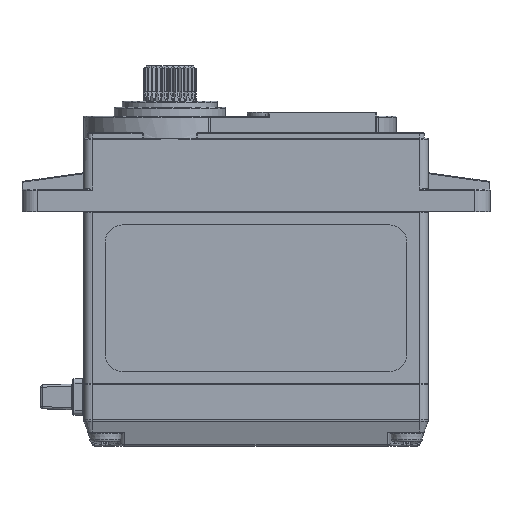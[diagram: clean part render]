
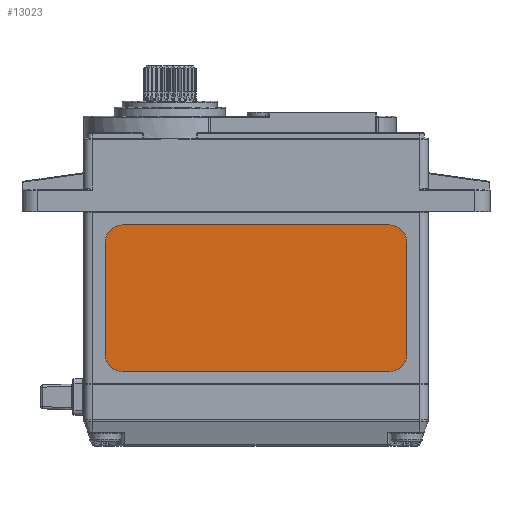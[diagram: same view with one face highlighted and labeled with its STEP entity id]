
A CAD part, front view. The second image highlights one B-rep face of the part: STEP entity #13023.
In plain terms, the highlighted planar face has unit normal (0, -1, 0) as drawn and (0, 0, 1) by its records, which use the part's own axes.
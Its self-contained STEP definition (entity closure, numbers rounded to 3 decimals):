
#488=PLANE('',#14598);
#1282=LINE('',#36898,#2098);
#1286=LINE('',#36910,#2102);
#1290=LINE('',#36922,#2106);
#1294=LINE('',#36934,#2110);
#2098=VECTOR('',#18312,10.);
#2102=VECTOR('',#18324,10.);
#2106=VECTOR('',#18336,10.);
#2110=VECTOR('',#18348,10.);
#3309=FACE_OUTER_BOUND('',#4085,.T.);
#4085=EDGE_LOOP('',(#12197,#12198,#12199,#12200,#12201,#12202,#12203,#12204));
#5148=CIRCLE('',#14585,2.);
#5150=CIRCLE('',#14589,2.);
#5152=CIRCLE('',#14593,2.);
#5154=CIRCLE('',#14597,2.);
#6357=VERTEX_POINT('',#36895);
#6358=VERTEX_POINT('',#36897);
#6360=VERTEX_POINT('',#36903);
#6362=VERTEX_POINT('',#36909);
#6364=VERTEX_POINT('',#36915);
#6366=VERTEX_POINT('',#36921);
#6368=VERTEX_POINT('',#36927);
#6370=VERTEX_POINT('',#36933);
#8299=EDGE_CURVE('',#6358,#6357,#1282,.T.);
#8302=EDGE_CURVE('',#6360,#6358,#5148,.T.);
#8305=EDGE_CURVE('',#6362,#6360,#1286,.T.);
#8308=EDGE_CURVE('',#6364,#6362,#5150,.T.);
#8311=EDGE_CURVE('',#6366,#6364,#1290,.T.);
#8314=EDGE_CURVE('',#6368,#6366,#5152,.T.);
#8317=EDGE_CURVE('',#6370,#6368,#1294,.T.);
#8320=EDGE_CURVE('',#6357,#6370,#5154,.T.);
#12197=ORIENTED_EDGE('',*,*,#8320,.T.);
#12198=ORIENTED_EDGE('',*,*,#8317,.T.);
#12199=ORIENTED_EDGE('',*,*,#8314,.T.);
#12200=ORIENTED_EDGE('',*,*,#8311,.T.);
#12201=ORIENTED_EDGE('',*,*,#8308,.T.);
#12202=ORIENTED_EDGE('',*,*,#8305,.T.);
#12203=ORIENTED_EDGE('',*,*,#8302,.T.);
#12204=ORIENTED_EDGE('',*,*,#8299,.T.);
#13023=ADVANCED_FACE('',(#3309),#488,.T.);
#14585=AXIS2_PLACEMENT_3D('',#36904,#18318,#18319);
#14589=AXIS2_PLACEMENT_3D('',#36916,#18330,#18331);
#14593=AXIS2_PLACEMENT_3D('',#36928,#18342,#18343);
#14597=AXIS2_PLACEMENT_3D('',#36938,#18354,#18355);
#14598=AXIS2_PLACEMENT_3D('',#36939,#18356,#18357);
#18312=DIRECTION('',(0.,-1.,0.));
#18318=DIRECTION('center_axis',(0.,0.,1.));
#18319=DIRECTION('ref_axis',(0.,1.,0.));
#18324=DIRECTION('',(-1.,0.,0.));
#18330=DIRECTION('center_axis',(0.,0.,1.));
#18331=DIRECTION('ref_axis',(1.,0.,0.));
#18336=DIRECTION('',(0.,1.,0.));
#18342=DIRECTION('center_axis',(0.,0.,1.));
#18343=DIRECTION('ref_axis',(0.,-1.,0.));
#18348=DIRECTION('',(1.,0.,0.));
#18354=DIRECTION('center_axis',(0.,0.,1.));
#18355=DIRECTION('ref_axis',(-1.,0.,0.));
#18356=DIRECTION('center_axis',(0.,0.,1.));
#18357=DIRECTION('ref_axis',(1.,0.,0.));
#36895=CARTESIAN_POINT('',(-17.5,-6.5,0.15));
#36897=CARTESIAN_POINT('',(-17.5,6.5,0.15));
#36898=CARTESIAN_POINT('',(-17.5,-6.5,0.15));
#36903=CARTESIAN_POINT('',(-15.5,8.5,0.15));
#36904=CARTESIAN_POINT('Origin',(-15.5,6.5,0.15));
#36909=CARTESIAN_POINT('',(15.5,8.5,0.15));
#36910=CARTESIAN_POINT('',(-15.5,8.5,0.15));
#36915=CARTESIAN_POINT('',(17.5,6.5,0.15));
#36916=CARTESIAN_POINT('Origin',(15.5,6.5,0.15));
#36921=CARTESIAN_POINT('',(17.5,-6.5,0.15));
#36922=CARTESIAN_POINT('',(17.5,6.5,0.15));
#36927=CARTESIAN_POINT('',(15.5,-8.5,0.15));
#36928=CARTESIAN_POINT('Origin',(15.5,-6.5,0.15));
#36933=CARTESIAN_POINT('',(-15.5,-8.5,0.15));
#36934=CARTESIAN_POINT('',(15.5,-8.5,0.15));
#36938=CARTESIAN_POINT('Origin',(-15.5,-6.5,0.15));
#36939=CARTESIAN_POINT('Origin',(0.,0.,0.15));
